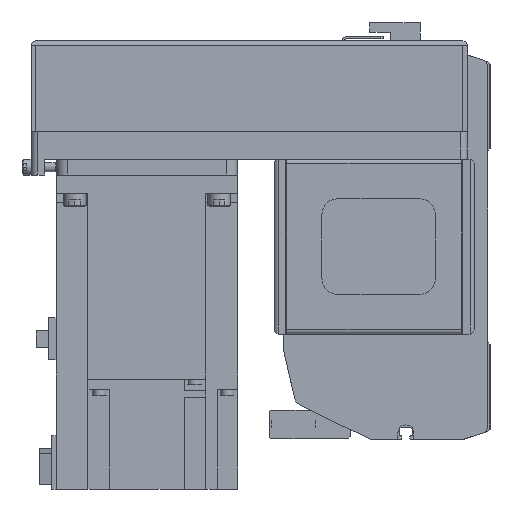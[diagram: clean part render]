
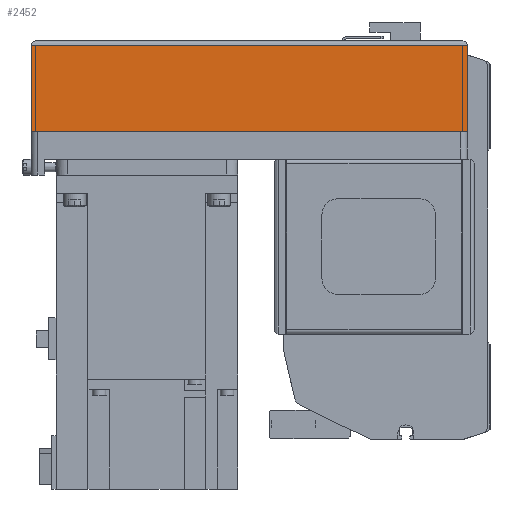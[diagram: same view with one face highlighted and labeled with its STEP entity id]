
A CAD part, left-side view. The second image highlights one B-rep face of the part: STEP entity #2452.
In plain terms, the highlighted planar face has unit normal (-1, 0, 0) as drawn and (0, 1, 0) by its records, which use the part's own axes.
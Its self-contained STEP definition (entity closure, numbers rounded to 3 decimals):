
#2452 = ADVANCED_FACE( '', ( #5343 ), #5344, .T. );
#5343 = FACE_OUTER_BOUND( '', #8651, .T. );
#5344 = PLANE( '', #8652 );
#8651 = EDGE_LOOP( '', ( #15608, #15609, #15610, #15611 ) );
#8652 = AXIS2_PLACEMENT_3D( '', #15612, #15613, #15614 );
#15608 = ORIENTED_EDGE( '', *, *, #19818, .F. );
#15609 = ORIENTED_EDGE( '', *, *, #21642, .F. );
#15610 = ORIENTED_EDGE( '', *, *, #21401, .T. );
#15611 = ORIENTED_EDGE( '', *, *, #21643, .T. );
#15612 = CARTESIAN_POINT( '', ( -192., 40., -50. ) );
#15613 = DIRECTION( '', ( 0., 1., 0. ) );
#15614 = DIRECTION( '', ( 0., 0., 1. ) );
#19818 = EDGE_CURVE( '', #24037, #24039, #24040, .T. );
#21401 = EDGE_CURVE( '', #26432, #26435, #26437, .T. );
#21642 = EDGE_CURVE( '', #26432, #24037, #26742, .T. );
#21643 = EDGE_CURVE( '', #26435, #24039, #26743, .T. );
#24037 = VERTEX_POINT( '', #29903 );
#24039 = VERTEX_POINT( '', #29906 );
#24040 = LINE( '', #29907, #29908 );
#26432 = VERTEX_POINT( '', #33652 );
#26435 = VERTEX_POINT( '', #33657 );
#26437 = LINE( '', #33660, #33661 );
#26742 = LINE( '', #34126, #34127 );
#26743 = LINE( '', #34128, #34129 );
#29903 = CARTESIAN_POINT( '', ( 0., 40., -50. ) );
#29906 = CARTESIAN_POINT( '', ( 0., 40., -12.1 ) );
#29907 = CARTESIAN_POINT( '', ( 0., 40., -50. ) );
#29908 = VECTOR( '', #36477, 1000. );
#33652 = CARTESIAN_POINT( '', ( -192., 40., -50. ) );
#33657 = CARTESIAN_POINT( '', ( -192., 40., -12.1 ) );
#33660 = CARTESIAN_POINT( '', ( -192., 40., -50. ) );
#33661 = VECTOR( '', #38437, 1000. );
#34126 = CARTESIAN_POINT( '', ( -192., 40., -50. ) );
#34127 = VECTOR( '', #38677, 1000. );
#34128 = CARTESIAN_POINT( '', ( -192., 40., -12.1 ) );
#34129 = VECTOR( '', #38678, 1000. );
#36477 = DIRECTION( '', ( 0., 0., 1. ) );
#38437 = DIRECTION( '', ( 0., 0., 1. ) );
#38677 = DIRECTION( '', ( 1., 0., 0. ) );
#38678 = DIRECTION( '', ( 1., 0., 0. ) );
